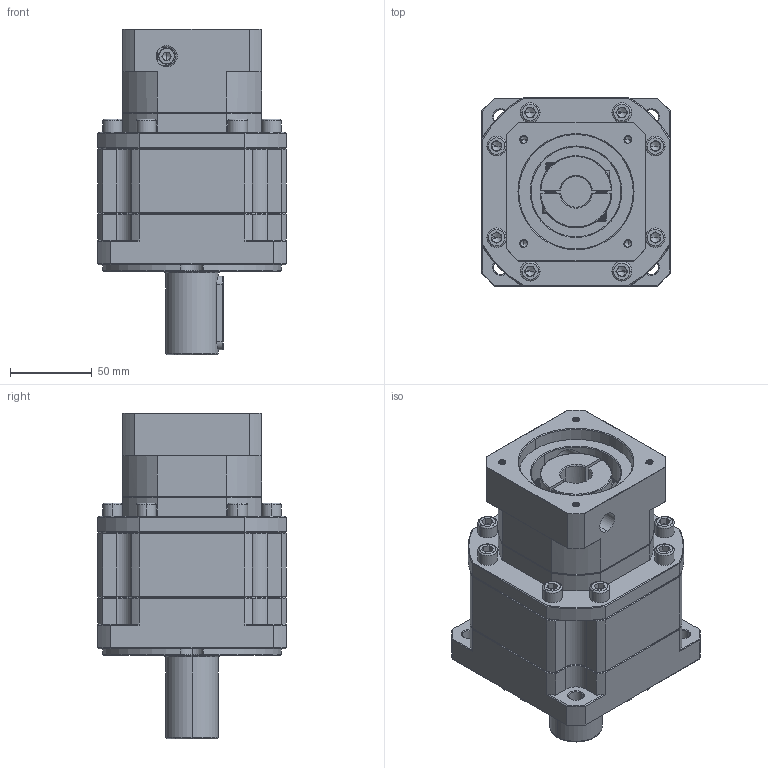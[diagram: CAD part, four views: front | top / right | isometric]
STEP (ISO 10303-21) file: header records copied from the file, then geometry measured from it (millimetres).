
FILE_DESCRIPTION (( 'STEP AP214' ), '1' );
FILE_NAME ('ZB115A-D32-L2-P2-19-70-90-M5.step', '2023-08-26T10:02:14', ( '' ), ( '' ), 'SwSTEP 2.0', 'SolidWorks 2016', '' );
FILE_SCHEMA (( 'AUTOMOTIVE_DESIGN' ));
Length unit declared in the file: millimetre
Products named in the file (1): ZB115A-D32-L2-P2-19-70-90-M5
Bounding box: 115 x 115 x 199 mm (x, y, z)
Volume: 1377422 mm3; surface area: 132410.3 mm2
Topology: 5 solids, 5 shells, 2382 faces, 6282 edges, 3999 vertices
Faces by surface type: plane 1180, bspline 442, cylinder 419, cone 341
Entity records: 127771 total; most frequent: CARTESIAN_POINT 46414, ORIENTED_EDGE 12488, DIRECTION 9780, EDGE_CURVE 6244, VECTOR 4022, LINE 4022, VERTEX_POINT 3999, AXIS2_PLACEMENT_3D 2879
